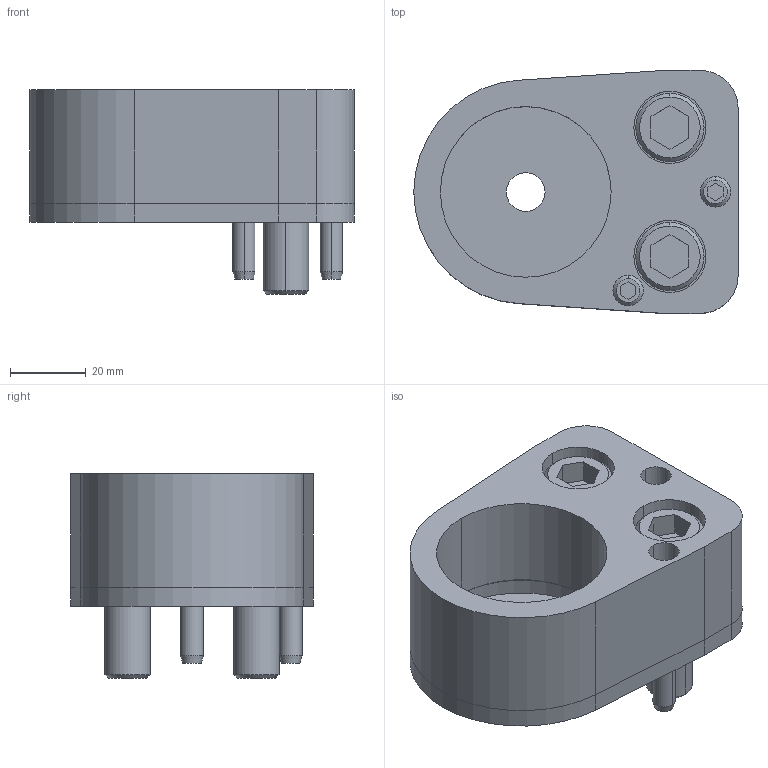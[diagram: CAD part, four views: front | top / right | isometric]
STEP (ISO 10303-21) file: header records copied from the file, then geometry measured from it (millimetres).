
FILE_DESCRIPTION(/* description */ (''),/* implementation_level */ '2;1');
FILE_NAME(/* name */ '3d_dp-ap45_02809_r00.stp',/* time_stamp */ '2011-01-10T14:15:57+09:00',/* author */ ('MISUMI'),/* organization */ (''),/* preprocessor_version */ 'ST-DEVELOPER v11',/* originating_system */ 'UGS - NX 5.0',/* authorisation */ '');
FILE_SCHEMA (('CONFIG_CONTROL_DESIGN'));
Length unit declared in the file: millimetre
Products named in the file (1): 3d_dp-ap45_02809_r00
Bounding box: 85.5 x 64 x 54 mm (x, y, z)
Volume: 118928.9 mm3; surface area: 40825.3 mm2
Topology: 8 solids, 8 shells, 155 faces, 346 edges, 222 vertices
Faces by surface type: plane 67, cylinder 62, cone 26
Entity records: 4480 total; most frequent: DIRECTION 804, CARTESIAN_POINT 778, ORIENTED_EDGE 692, EDGE_CURVE 346, AXIS2_PLACEMENT_3D 306, VERTEX_POINT 222, LINE 192, VECTOR 192
